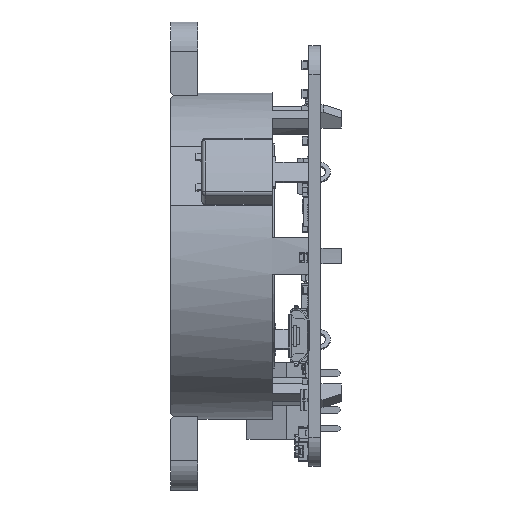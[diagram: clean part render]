
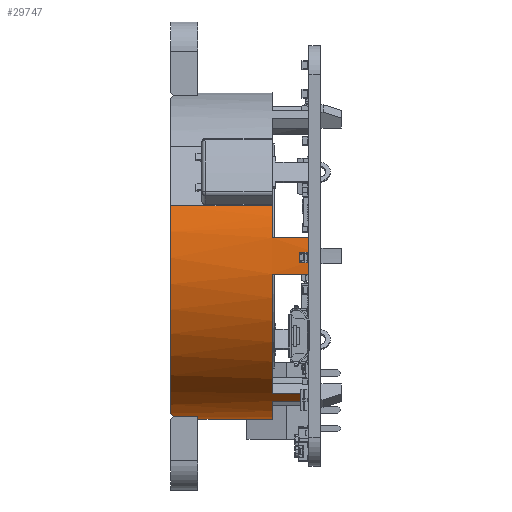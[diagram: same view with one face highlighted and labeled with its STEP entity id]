
A CAD part, left-side view. The second image highlights one B-rep face of the part: STEP entity #29747.
In plain terms, the highlighted cylindrical face has radius 22.5 mm (diameter 45 mm), a partial arc.
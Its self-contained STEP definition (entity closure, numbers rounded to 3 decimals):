
#29747 = ADVANCED_FACE ( 'NONE', ( #31582 ), #31583, .T. ) ;
#31582 = FACE_OUTER_BOUND ( 'NONE', #258179, .T. ) ;
#31583 = CYLINDRICAL_SURFACE ( 'NONE', #311383, 22.5 ) ;
#37118 = CARTESIAN_POINT ( 'NONE',  ( 0., 19., 0. ) ) ;
#37120 = DIRECTION ( 'NONE',  ( 0., -1., 0. ) ) ;
#37122 = DIRECTION ( 'NONE',  ( 0., 0., -1. ) ) ;
#38624 = LINE ( 'NONE', #45754, #38631 ) ;
#38628 = CIRCLE ( 'NONE', #288998, 22.5 ) ;
#38631 = VECTOR ( 'NONE', #45756, 1000. ) ;
#38635 = LINE ( 'NONE', #45766, #38641 ) ;
#38638 = CIRCLE ( 'NONE', #289001, 22.5 ) ;
#38641 = VECTOR ( 'NONE', #45767, 1000. ) ;
#38645 = LINE ( 'NONE', #45782, #38651 ) ;
#38648 = CIRCLE ( 'NONE', #289006, 22.5 ) ;
#38651 = VECTOR ( 'NONE', #45784, 1000. ) ;
#38656 = LINE ( 'NONE', #45794, #38660 ) ;
#38658 = CIRCLE ( 'NONE', #289009, 22.5 ) ;
#38660 = VECTOR ( 'NONE', #45796, 1000. ) ;
#38666 = LINE ( 'NONE', #45806, #38671 ) ;
#38669 = CIRCLE ( 'NONE', #289012, 22.5 ) ;
#38671 = VECTOR ( 'NONE', #45808, 1000. ) ;
#38675 = LINE ( 'NONE', #45821, #38681 ) ;
#38678 = CIRCLE ( 'NONE', #289016, 22.5 ) ;
#38681 = VECTOR ( 'NONE', #45823, 1000. ) ;
#38688 = CIRCLE ( 'NONE', #289019, 22.5 ) ;
#38691 = LINE ( 'NONE', #45842, #38693 ) ;
#38693 = VECTOR ( 'NONE', #45845, 1000. ) ;
#44086 = EDGE_CURVE ( 'NONE', #47410, #47413, #38628, .T. ) ;
#44087 = EDGE_CURVE ( 'NONE', #47410, #47417, #38624, .T. ) ;
#44090 = EDGE_CURVE ( 'NONE', #47420, #47417, #38638, .T. ) ;
#44091 = EDGE_CURVE ( 'NONE', #47423, #47420, #38635, .T. ) ;
#44093 = EDGE_CURVE ( 'NONE', #47426, #47423, #38648, .T. ) ;
#44095 = EDGE_CURVE ( 'NONE', #47428, #47426, #38645, .T. ) ;
#44097 = EDGE_CURVE ( 'NONE', #47428, #47431, #38658, .T. ) ;
#44099 = EDGE_CURVE ( 'NONE', #47435, #47431, #38656, .T. ) ;
#44101 = EDGE_CURVE ( 'NONE', #47435, #47439, #38669, .T. ) ;
#44103 = EDGE_CURVE ( 'NONE', #47441, #47439, #38666, .T. ) ;
#44105 = EDGE_CURVE ( 'NONE', #47441, #47446, #38678, .T. ) ;
#44107 = EDGE_CURVE ( 'NONE', #47451, #47446, #38675, .T. ) ;
#44109 = EDGE_CURVE ( 'NONE', #47454, #47451, #38688, .T. ) ;
#44111 = EDGE_CURVE ( 'NONE', #47454, #47459, #59960, .T. ) ;
#44112 = EDGE_CURVE ( 'NONE', #47413, #47459, #38691, .T. ) ;
#45747 = CARTESIAN_POINT ( 'NONE',  ( 0., 15.25, 0. ) ) ;
#45749 = DIRECTION ( 'NONE',  ( 0., 1., 0. ) ) ;
#45751 = DIRECTION ( 'NONE',  ( 0., 0., 1. ) ) ;
#45754 = CARTESIAN_POINT ( 'NONE',  ( 0., 19., -22.5 ) ) ;
#45756 = DIRECTION ( 'NONE',  ( 0., -1., 0. ) ) ;
#45759 = CARTESIAN_POINT ( 'NONE',  ( 0., 5., 0. ) ) ;
#45761 = DIRECTION ( 'NONE',  ( 0., -1., 0. ) ) ;
#45763 = DIRECTION ( 'NONE',  ( 0., 0., -1. ) ) ;
#45766 = CARTESIAN_POINT ( 'NONE',  ( -10.328, 19., -19.989 ) ) ;
#45767 = DIRECTION ( 'NONE',  ( 0., 1., 0. ) ) ;
#45772 = CARTESIAN_POINT ( 'NONE',  ( 0., -1.5, 0. ) ) ;
#45774 = DIRECTION ( 'NONE',  ( 0., -1., 0. ) ) ;
#45777 = DIRECTION ( 'NONE',  ( 0., 0., -1. ) ) ;
#45782 = CARTESIAN_POINT ( 'NONE',  ( -12.147, 19., -18.939 ) ) ;
#45784 = DIRECTION ( 'NONE',  ( 0., -1., 0. ) ) ;
#45787 = CARTESIAN_POINT ( 'NONE',  ( 0., 5., 0. ) ) ;
#45789 = DIRECTION ( 'NONE',  ( 0., 1., 0. ) ) ;
#45791 = DIRECTION ( 'NONE',  ( 0., 0., 1. ) ) ;
#45794 = CARTESIAN_POINT ( 'NONE',  ( -22.361, 19., -2.5 ) ) ;
#45796 = DIRECTION ( 'NONE',  ( 0., 1., 0. ) ) ;
#45799 = CARTESIAN_POINT ( 'NONE',  ( 0., 0., 0. ) ) ;
#45801 = DIRECTION ( 'NONE',  ( 0., 1., 0. ) ) ;
#45803 = DIRECTION ( 'NONE',  ( 0., 0., 1. ) ) ;
#45806 = CARTESIAN_POINT ( 'NONE',  ( -22.361, 19., 2.5 ) ) ;
#45808 = DIRECTION ( 'NONE',  ( 0., -1., 0. ) ) ;
#45812 = CARTESIAN_POINT ( 'NONE',  ( 0., 5., 0. ) ) ;
#45815 = DIRECTION ( 'NONE',  ( 0., 1., 0. ) ) ;
#45818 = DIRECTION ( 'NONE',  ( 0., 0., 1. ) ) ;
#45821 = CARTESIAN_POINT ( 'NONE',  ( -21.411, 19., 6.915 ) ) ;
#45823 = DIRECTION ( 'NONE',  ( 0., -1., 0. ) ) ;
#45825 = CARTESIAN_POINT ( 'NONE',  ( 0., 19., 0. ) ) ;
#45827 = DIRECTION ( 'NONE',  ( 0., 1., 0. ) ) ;
#45828 = DIRECTION ( 'NONE',  ( 0., 0., 1. ) ) ;
#45831 = CARTESIAN_POINT ( 'NONE',  ( -5.901, 19., -21.712 ) ) ;
#45832 = CARTESIAN_POINT ( 'NONE',  ( -5.274, 18.829, -21.883 ) ) ;
#45834 = CARTESIAN_POINT ( 'NONE',  ( -4.64, 18.686, -22.026 ) ) ;
#45836 = CARTESIAN_POINT ( 'NONE',  ( -4., 18.57, -22.142 ) ) ;
#45842 = CARTESIAN_POINT ( 'NONE',  ( -4., 15.25, -22.142 ) ) ;
#45845 = DIRECTION ( 'NONE',  ( 0., 1., 0. ) ) ;
#47410 = VERTEX_POINT ( 'NONE', #60160 ) ;
#47413 = VERTEX_POINT ( 'NONE', #60161 ) ;
#47417 = VERTEX_POINT ( 'NONE', #60162 ) ;
#47420 = VERTEX_POINT ( 'NONE', #60163 ) ;
#47423 = VERTEX_POINT ( 'NONE', #60164 ) ;
#47426 = VERTEX_POINT ( 'NONE', #60165 ) ;
#47428 = VERTEX_POINT ( 'NONE', #60166 ) ;
#47431 = VERTEX_POINT ( 'NONE', #60167 ) ;
#47435 = VERTEX_POINT ( 'NONE', #60168 ) ;
#47439 = VERTEX_POINT ( 'NONE', #60169 ) ;
#47441 = VERTEX_POINT ( 'NONE', #60170 ) ;
#47446 = VERTEX_POINT ( 'NONE', #60171 ) ;
#47451 = VERTEX_POINT ( 'NONE', #60172 ) ;
#47454 = VERTEX_POINT ( 'NONE', #60173 ) ;
#47459 = VERTEX_POINT ( 'NONE', #60174 ) ;
#59960 =( BOUNDED_CURVE ( )  B_SPLINE_CURVE ( 3, ( #45831, #45832, #45834, #45836 ),
 .UNSPECIFIED., .F., .F. ) 
 B_SPLINE_CURVE_WITH_KNOTS ( ( 4, 4 ),
 ( 6.018, 6.104 ),
 .UNSPECIFIED. ) 
 CURVE ( )  GEOMETRIC_REPRESENTATION_ITEM ( )  RATIONAL_B_SPLINE_CURVE ( ( 1., 0.999, 0.999, 1. ) ) 
 REPRESENTATION_ITEM ( '' )  );
#60160 = CARTESIAN_POINT ( 'NONE',  ( 0., 15.25, -22.5 ) ) ;
#60161 = CARTESIAN_POINT ( 'NONE',  ( -4., 15.25, -22.142 ) ) ;
#60162 = CARTESIAN_POINT ( 'NONE',  ( 0., 5., -22.5 ) ) ;
#60163 = CARTESIAN_POINT ( 'NONE',  ( -10.328, 5., -19.989 ) ) ;
#60164 = CARTESIAN_POINT ( 'NONE',  ( -10.328, -1.5, -19.989 ) ) ;
#60165 = CARTESIAN_POINT ( 'NONE',  ( -12.147, -1.5, -18.939 ) ) ;
#60166 = CARTESIAN_POINT ( 'NONE',  ( -12.147, 5., -18.939 ) ) ;
#60167 = CARTESIAN_POINT ( 'NONE',  ( -22.361, 5., -2.5 ) ) ;
#60168 = CARTESIAN_POINT ( 'NONE',  ( -22.361, 0., -2.5 ) ) ;
#60169 = CARTESIAN_POINT ( 'NONE',  ( -22.361, 0., 2.5 ) ) ;
#60170 = CARTESIAN_POINT ( 'NONE',  ( -22.361, 5., 2.5 ) ) ;
#60171 = CARTESIAN_POINT ( 'NONE',  ( -21.411, 5., 6.915 ) ) ;
#60172 = CARTESIAN_POINT ( 'NONE',  ( -21.411, 19., 6.915 ) ) ;
#60173 = CARTESIAN_POINT ( 'NONE',  ( -5.901, 19., -21.712 ) ) ;
#60174 = CARTESIAN_POINT ( 'NONE',  ( -4., 18.57, -22.142 ) ) ;
#61832 = ORIENTED_EDGE ( 'NONE', *, *, #44086, .F. ) ;
#61834 = ORIENTED_EDGE ( 'NONE', *, *, #44087, .T. ) ;
#61836 = ORIENTED_EDGE ( 'NONE', *, *, #44090, .F. ) ;
#61838 = ORIENTED_EDGE ( 'NONE', *, *, #44091, .F. ) ;
#61840 = ORIENTED_EDGE ( 'NONE', *, *, #44093, .F. ) ;
#61842 = ORIENTED_EDGE ( 'NONE', *, *, #44095, .F. ) ;
#61844 = ORIENTED_EDGE ( 'NONE', *, *, #44097, .T. ) ;
#61846 = ORIENTED_EDGE ( 'NONE', *, *, #44099, .F. ) ;
#61848 = ORIENTED_EDGE ( 'NONE', *, *, #44101, .T. ) ;
#61850 = ORIENTED_EDGE ( 'NONE', *, *, #44103, .F. ) ;
#61852 = ORIENTED_EDGE ( 'NONE', *, *, #44105, .T. ) ;
#61854 = ORIENTED_EDGE ( 'NONE', *, *, #44107, .F. ) ;
#61856 = ORIENTED_EDGE ( 'NONE', *, *, #44109, .F. ) ;
#61858 = ORIENTED_EDGE ( 'NONE', *, *, #44111, .T. ) ;
#61860 = ORIENTED_EDGE ( 'NONE', *, *, #44112, .F. ) ;
#258179 = EDGE_LOOP ( 'NONE', ( #61832, #61834, #61836, #61838, #61840, #61842, #61844, #61846, #61848, #61850, #61852, #61854, #61856, #61858, #61860 ) ) ;
#288998 = AXIS2_PLACEMENT_3D ( 'NONE', #45747, #45749, #45751 ) ;
#289001 = AXIS2_PLACEMENT_3D ( 'NONE', #45759, #45761, #45763 ) ;
#289006 = AXIS2_PLACEMENT_3D ( 'NONE', #45772, #45774, #45777 ) ;
#289009 = AXIS2_PLACEMENT_3D ( 'NONE', #45787, #45789, #45791 ) ;
#289012 = AXIS2_PLACEMENT_3D ( 'NONE', #45799, #45801, #45803 ) ;
#289016 = AXIS2_PLACEMENT_3D ( 'NONE', #45812, #45815, #45818 ) ;
#289019 = AXIS2_PLACEMENT_3D ( 'NONE', #45825, #45827, #45828 ) ;
#311383 = AXIS2_PLACEMENT_3D ( 'NONE', #37118, #37120, #37122 ) ;
